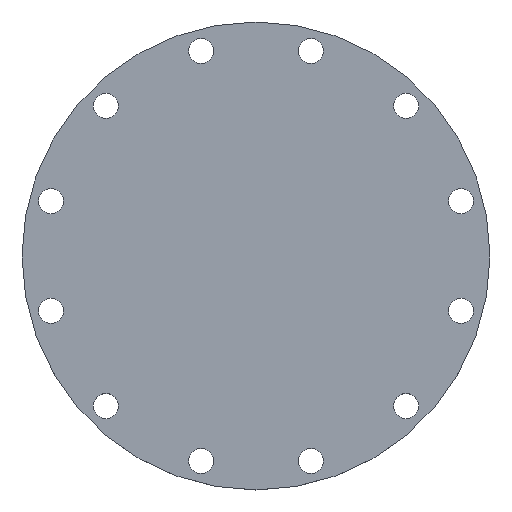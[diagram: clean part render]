
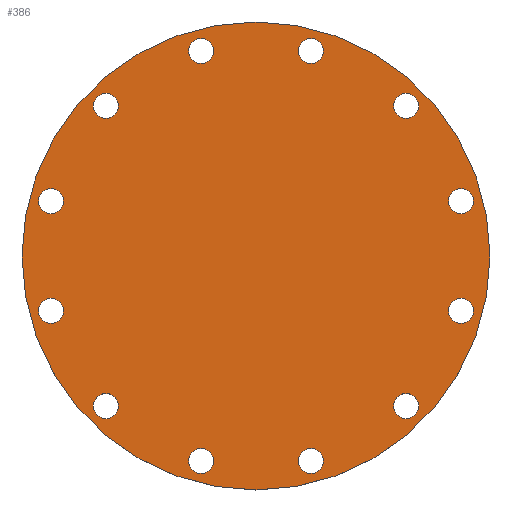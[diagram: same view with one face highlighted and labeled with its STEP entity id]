
A CAD part, top view. The second image highlights one B-rep face of the part: STEP entity #386.
In plain terms, the highlighted planar face has unit normal (0, 0, 1).
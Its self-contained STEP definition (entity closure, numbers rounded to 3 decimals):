
#15=FACE_BOUND('',#70,.T.);
#16=FACE_BOUND('',#71,.T.);
#17=FACE_BOUND('',#72,.T.);
#18=FACE_BOUND('',#73,.T.);
#19=FACE_BOUND('',#74,.T.);
#20=FACE_BOUND('',#75,.T.);
#21=FACE_BOUND('',#76,.T.);
#22=FACE_BOUND('',#77,.T.);
#23=FACE_BOUND('',#78,.T.);
#24=FACE_BOUND('',#79,.T.);
#25=FACE_BOUND('',#80,.T.);
#26=FACE_BOUND('',#81,.T.);
#39=PLANE('',#461);
#54=FACE_OUTER_BOUND('',#69,.T.);
#69=EDGE_LOOP('',(#320,#321));
#70=EDGE_LOOP('',(#322,#323));
#71=EDGE_LOOP('',(#324,#325));
#72=EDGE_LOOP('',(#326,#327));
#73=EDGE_LOOP('',(#328,#329));
#74=EDGE_LOOP('',(#330,#331));
#75=EDGE_LOOP('',(#332,#333));
#76=EDGE_LOOP('',(#334,#335));
#77=EDGE_LOOP('',(#336,#337));
#78=EDGE_LOOP('',(#338,#339));
#79=EDGE_LOOP('',(#340,#341));
#80=EDGE_LOOP('',(#342,#343));
#81=EDGE_LOOP('',(#344,#345));
#121=CIRCLE('',#409,11.5);
#122=CIRCLE('',#410,11.5);
#124=CIRCLE('',#413,11.5);
#125=CIRCLE('',#414,11.5);
#127=CIRCLE('',#417,11.5);
#128=CIRCLE('',#418,11.5);
#130=CIRCLE('',#421,11.5);
#131=CIRCLE('',#422,11.5);
#133=CIRCLE('',#425,11.5);
#134=CIRCLE('',#426,11.5);
#136=CIRCLE('',#429,11.5);
#137=CIRCLE('',#430,11.5);
#139=CIRCLE('',#433,11.5);
#140=CIRCLE('',#434,11.5);
#142=CIRCLE('',#437,11.5);
#143=CIRCLE('',#438,11.5);
#145=CIRCLE('',#441,11.5);
#146=CIRCLE('',#442,11.5);
#148=CIRCLE('',#445,11.5);
#149=CIRCLE('',#446,11.5);
#151=CIRCLE('',#449,11.5);
#152=CIRCLE('',#450,11.5);
#154=CIRCLE('',#453,11.5);
#155=CIRCLE('',#454,11.5);
#157=CIRCLE('',#457,215.);
#158=CIRCLE('',#458,215.);
#161=VERTEX_POINT('',#590);
#162=VERTEX_POINT('',#591);
#164=VERTEX_POINT('',#598);
#165=VERTEX_POINT('',#599);
#167=VERTEX_POINT('',#606);
#168=VERTEX_POINT('',#607);
#170=VERTEX_POINT('',#614);
#171=VERTEX_POINT('',#615);
#173=VERTEX_POINT('',#622);
#174=VERTEX_POINT('',#623);
#176=VERTEX_POINT('',#630);
#177=VERTEX_POINT('',#631);
#179=VERTEX_POINT('',#638);
#180=VERTEX_POINT('',#639);
#182=VERTEX_POINT('',#646);
#183=VERTEX_POINT('',#647);
#185=VERTEX_POINT('',#654);
#186=VERTEX_POINT('',#655);
#188=VERTEX_POINT('',#662);
#189=VERTEX_POINT('',#663);
#191=VERTEX_POINT('',#670);
#192=VERTEX_POINT('',#671);
#194=VERTEX_POINT('',#678);
#195=VERTEX_POINT('',#679);
#197=VERTEX_POINT('',#686);
#198=VERTEX_POINT('',#687);
#201=EDGE_CURVE('',#161,#162,#121,.T.);
#202=EDGE_CURVE('',#162,#161,#122,.T.);
#205=EDGE_CURVE('',#164,#165,#124,.T.);
#206=EDGE_CURVE('',#165,#164,#125,.T.);
#209=EDGE_CURVE('',#167,#168,#127,.T.);
#210=EDGE_CURVE('',#168,#167,#128,.T.);
#213=EDGE_CURVE('',#170,#171,#130,.T.);
#214=EDGE_CURVE('',#171,#170,#131,.T.);
#217=EDGE_CURVE('',#173,#174,#133,.T.);
#218=EDGE_CURVE('',#174,#173,#134,.T.);
#221=EDGE_CURVE('',#176,#177,#136,.T.);
#222=EDGE_CURVE('',#177,#176,#137,.T.);
#225=EDGE_CURVE('',#179,#180,#139,.T.);
#226=EDGE_CURVE('',#180,#179,#140,.T.);
#229=EDGE_CURVE('',#182,#183,#142,.T.);
#230=EDGE_CURVE('',#183,#182,#143,.T.);
#233=EDGE_CURVE('',#185,#186,#145,.T.);
#234=EDGE_CURVE('',#186,#185,#146,.T.);
#237=EDGE_CURVE('',#188,#189,#148,.T.);
#238=EDGE_CURVE('',#189,#188,#149,.T.);
#241=EDGE_CURVE('',#191,#192,#151,.T.);
#242=EDGE_CURVE('',#192,#191,#152,.T.);
#245=EDGE_CURVE('',#194,#195,#154,.T.);
#246=EDGE_CURVE('',#195,#194,#155,.T.);
#249=EDGE_CURVE('',#197,#198,#157,.T.);
#250=EDGE_CURVE('',#198,#197,#158,.T.);
#320=ORIENTED_EDGE('',*,*,#249,.T.);
#321=ORIENTED_EDGE('',*,*,#250,.T.);
#322=ORIENTED_EDGE('',*,*,#201,.T.);
#323=ORIENTED_EDGE('',*,*,#202,.T.);
#324=ORIENTED_EDGE('',*,*,#205,.T.);
#325=ORIENTED_EDGE('',*,*,#206,.T.);
#326=ORIENTED_EDGE('',*,*,#209,.T.);
#327=ORIENTED_EDGE('',*,*,#210,.T.);
#328=ORIENTED_EDGE('',*,*,#213,.T.);
#329=ORIENTED_EDGE('',*,*,#214,.T.);
#330=ORIENTED_EDGE('',*,*,#217,.T.);
#331=ORIENTED_EDGE('',*,*,#218,.T.);
#332=ORIENTED_EDGE('',*,*,#221,.T.);
#333=ORIENTED_EDGE('',*,*,#222,.T.);
#334=ORIENTED_EDGE('',*,*,#225,.T.);
#335=ORIENTED_EDGE('',*,*,#226,.T.);
#336=ORIENTED_EDGE('',*,*,#229,.T.);
#337=ORIENTED_EDGE('',*,*,#230,.T.);
#338=ORIENTED_EDGE('',*,*,#233,.T.);
#339=ORIENTED_EDGE('',*,*,#234,.T.);
#340=ORIENTED_EDGE('',*,*,#237,.T.);
#341=ORIENTED_EDGE('',*,*,#238,.T.);
#342=ORIENTED_EDGE('',*,*,#241,.T.);
#343=ORIENTED_EDGE('',*,*,#242,.T.);
#344=ORIENTED_EDGE('',*,*,#245,.T.);
#345=ORIENTED_EDGE('',*,*,#246,.T.);
#386=ADVANCED_FACE('',(#54,#15,#16,#17,#18,#19,#20,#21,#22,#23,#24,#25,
#26),#39,.T.);
#409=AXIS2_PLACEMENT_3D('',#592,#467,#468);
#410=AXIS2_PLACEMENT_3D('',#593,#469,#470);
#413=AXIS2_PLACEMENT_3D('',#600,#476,#477);
#414=AXIS2_PLACEMENT_3D('',#601,#478,#479);
#417=AXIS2_PLACEMENT_3D('',#608,#485,#486);
#418=AXIS2_PLACEMENT_3D('',#609,#487,#488);
#421=AXIS2_PLACEMENT_3D('',#616,#494,#495);
#422=AXIS2_PLACEMENT_3D('',#617,#496,#497);
#425=AXIS2_PLACEMENT_3D('',#624,#503,#504);
#426=AXIS2_PLACEMENT_3D('',#625,#505,#506);
#429=AXIS2_PLACEMENT_3D('',#632,#512,#513);
#430=AXIS2_PLACEMENT_3D('',#633,#514,#515);
#433=AXIS2_PLACEMENT_3D('',#640,#521,#522);
#434=AXIS2_PLACEMENT_3D('',#641,#523,#524);
#437=AXIS2_PLACEMENT_3D('',#648,#530,#531);
#438=AXIS2_PLACEMENT_3D('',#649,#532,#533);
#441=AXIS2_PLACEMENT_3D('',#656,#539,#540);
#442=AXIS2_PLACEMENT_3D('',#657,#541,#542);
#445=AXIS2_PLACEMENT_3D('',#664,#548,#549);
#446=AXIS2_PLACEMENT_3D('',#665,#550,#551);
#449=AXIS2_PLACEMENT_3D('',#672,#557,#558);
#450=AXIS2_PLACEMENT_3D('',#673,#559,#560);
#453=AXIS2_PLACEMENT_3D('',#680,#566,#567);
#454=AXIS2_PLACEMENT_3D('',#681,#568,#569);
#457=AXIS2_PLACEMENT_3D('',#688,#575,#576);
#458=AXIS2_PLACEMENT_3D('',#689,#577,#578);
#461=AXIS2_PLACEMENT_3D('',#695,#584,#585);
#467=DIRECTION('center_axis',(0.,0.,-1.));
#468=DIRECTION('ref_axis',(0.866,-0.5,0.));
#469=DIRECTION('center_axis',(0.,0.,-1.));
#470=DIRECTION('ref_axis',(0.866,-0.5,0.));
#476=DIRECTION('center_axis',(0.,0.,-1.));
#477=DIRECTION('ref_axis',(0.5,-0.866,0.));
#478=DIRECTION('center_axis',(0.,0.,-1.));
#479=DIRECTION('ref_axis',(0.5,-0.866,0.));
#485=DIRECTION('center_axis',(0.,0.,-1.));
#486=DIRECTION('ref_axis',(0.,-1.,0.));
#487=DIRECTION('center_axis',(0.,0.,-1.));
#488=DIRECTION('ref_axis',(0.,-1.,0.));
#494=DIRECTION('center_axis',(0.,0.,-1.));
#495=DIRECTION('ref_axis',(-0.5,-0.866,0.));
#496=DIRECTION('center_axis',(0.,0.,-1.));
#497=DIRECTION('ref_axis',(-0.5,-0.866,0.));
#503=DIRECTION('center_axis',(0.,0.,-1.));
#504=DIRECTION('ref_axis',(-0.866,-0.5,0.));
#505=DIRECTION('center_axis',(0.,0.,-1.));
#506=DIRECTION('ref_axis',(-0.866,-0.5,0.));
#512=DIRECTION('center_axis',(0.,0.,-1.));
#513=DIRECTION('ref_axis',(-1.,0.,0.));
#514=DIRECTION('center_axis',(0.,0.,-1.));
#515=DIRECTION('ref_axis',(-1.,0.,0.));
#521=DIRECTION('center_axis',(0.,0.,-1.));
#522=DIRECTION('ref_axis',(-0.866,0.5,0.));
#523=DIRECTION('center_axis',(0.,0.,-1.));
#524=DIRECTION('ref_axis',(-0.866,0.5,0.));
#530=DIRECTION('center_axis',(0.,0.,-1.));
#531=DIRECTION('ref_axis',(-0.5,0.866,0.));
#532=DIRECTION('center_axis',(0.,0.,-1.));
#533=DIRECTION('ref_axis',(-0.5,0.866,0.));
#539=DIRECTION('center_axis',(0.,0.,-1.));
#540=DIRECTION('ref_axis',(0.,1.,0.));
#541=DIRECTION('center_axis',(0.,0.,-1.));
#542=DIRECTION('ref_axis',(0.,1.,0.));
#548=DIRECTION('center_axis',(0.,0.,-1.));
#549=DIRECTION('ref_axis',(0.5,0.866,0.));
#550=DIRECTION('center_axis',(0.,0.,-1.));
#551=DIRECTION('ref_axis',(0.5,0.866,0.));
#557=DIRECTION('center_axis',(0.,0.,-1.));
#558=DIRECTION('ref_axis',(0.866,0.5,0.));
#559=DIRECTION('center_axis',(0.,0.,-1.));
#560=DIRECTION('ref_axis',(0.866,0.5,0.));
#566=DIRECTION('center_axis',(0.,0.,-1.));
#567=DIRECTION('ref_axis',(1.,0.,0.));
#568=DIRECTION('center_axis',(0.,0.,-1.));
#569=DIRECTION('ref_axis',(1.,0.,0.));
#575=DIRECTION('center_axis',(0.,0.,1.));
#576=DIRECTION('ref_axis',(1.,0.,0.));
#577=DIRECTION('center_axis',(0.,0.,1.));
#578=DIRECTION('ref_axis',(1.,0.,0.));
#584=DIRECTION('center_axis',(0.,0.,1.));
#585=DIRECTION('ref_axis',(1.,0.,0.));
#590=CARTESIAN_POINT('',(60.429,182.606,22.));
#591=CARTESIAN_POINT('',(40.51,194.106,22.));
#592=CARTESIAN_POINT('Origin',(50.47,188.356,22.));
#593=CARTESIAN_POINT('Origin',(50.47,188.356,22.));
#598=CARTESIAN_POINT('',(143.636,127.927,22.));
#599=CARTESIAN_POINT('',(132.136,147.845,22.));
#600=CARTESIAN_POINT('Origin',(137.886,137.886,22.));
#601=CARTESIAN_POINT('Origin',(137.886,137.886,22.));
#606=CARTESIAN_POINT('',(188.356,38.97,22.));
#607=CARTESIAN_POINT('',(188.356,61.97,22.));
#608=CARTESIAN_POINT('Origin',(188.356,50.47,22.));
#609=CARTESIAN_POINT('Origin',(188.356,50.47,22.));
#614=CARTESIAN_POINT('',(182.606,-60.429,22.));
#615=CARTESIAN_POINT('',(194.106,-40.51,22.));
#616=CARTESIAN_POINT('Origin',(188.356,-50.47,22.));
#617=CARTESIAN_POINT('Origin',(188.356,-50.47,22.));
#622=CARTESIAN_POINT('',(127.927,-143.636,22.));
#623=CARTESIAN_POINT('',(147.845,-132.136,22.));
#624=CARTESIAN_POINT('Origin',(137.886,-137.886,22.));
#625=CARTESIAN_POINT('Origin',(137.886,-137.886,22.));
#630=CARTESIAN_POINT('',(38.97,-188.356,22.));
#631=CARTESIAN_POINT('',(61.97,-188.356,22.));
#632=CARTESIAN_POINT('Origin',(50.47,-188.356,22.));
#633=CARTESIAN_POINT('Origin',(50.47,-188.356,22.));
#638=CARTESIAN_POINT('',(-60.429,-182.606,22.));
#639=CARTESIAN_POINT('',(-40.51,-194.106,22.));
#640=CARTESIAN_POINT('Origin',(-50.47,-188.356,22.));
#641=CARTESIAN_POINT('Origin',(-50.47,-188.356,22.));
#646=CARTESIAN_POINT('',(-143.636,-127.927,22.));
#647=CARTESIAN_POINT('',(-132.136,-147.845,22.));
#648=CARTESIAN_POINT('Origin',(-137.886,-137.886,22.));
#649=CARTESIAN_POINT('Origin',(-137.886,-137.886,22.));
#654=CARTESIAN_POINT('',(-188.356,-38.97,22.));
#655=CARTESIAN_POINT('',(-188.356,-61.97,22.));
#656=CARTESIAN_POINT('Origin',(-188.356,-50.47,22.));
#657=CARTESIAN_POINT('Origin',(-188.356,-50.47,22.));
#662=CARTESIAN_POINT('',(-182.606,60.429,22.));
#663=CARTESIAN_POINT('',(-194.106,40.51,22.));
#664=CARTESIAN_POINT('Origin',(-188.356,50.47,22.));
#665=CARTESIAN_POINT('Origin',(-188.356,50.47,22.));
#670=CARTESIAN_POINT('',(-127.927,143.636,22.));
#671=CARTESIAN_POINT('',(-147.845,132.136,22.));
#672=CARTESIAN_POINT('Origin',(-137.886,137.886,22.));
#673=CARTESIAN_POINT('Origin',(-137.886,137.886,22.));
#678=CARTESIAN_POINT('',(-38.97,188.356,22.));
#679=CARTESIAN_POINT('',(-61.97,188.356,22.));
#680=CARTESIAN_POINT('Origin',(-50.47,188.356,22.));
#681=CARTESIAN_POINT('Origin',(-50.47,188.356,22.));
#686=CARTESIAN_POINT('',(215.,0.,22.));
#687=CARTESIAN_POINT('',(-215.,0.,22.));
#688=CARTESIAN_POINT('Origin',(0.,0.,22.));
#689=CARTESIAN_POINT('Origin',(0.,0.,22.));
#695=CARTESIAN_POINT('Origin',(0.,0.,22.));
